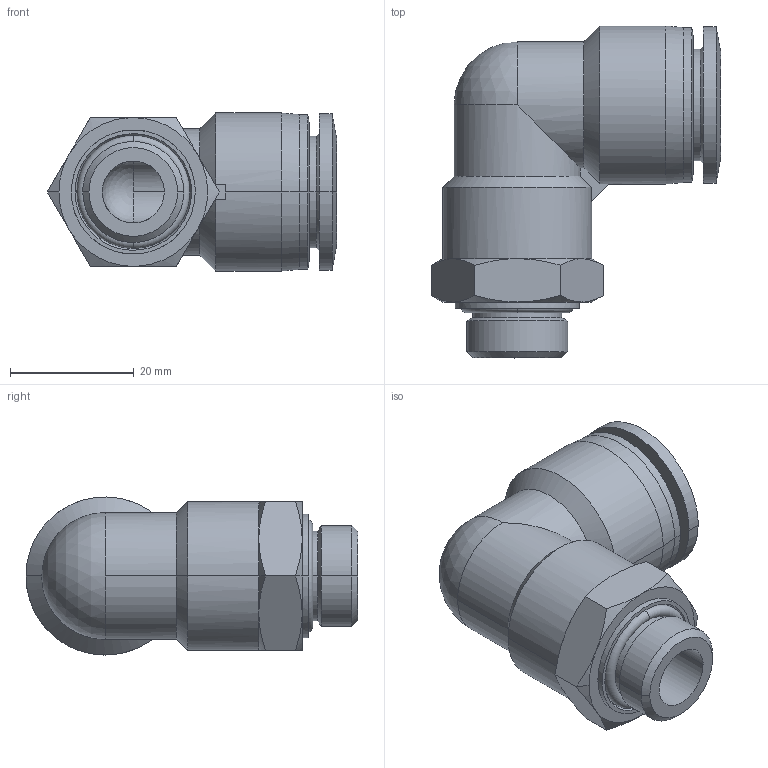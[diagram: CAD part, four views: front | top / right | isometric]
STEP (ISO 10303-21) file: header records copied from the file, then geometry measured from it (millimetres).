
FILE_DESCRIPTION (( 'STEP AP203' ), '1' );
FILE_NAME ('FL16-03.STEP', '2020-05-06T15:05:58', ( '' ), ( '' ), 'SwSTEP 2.0', 'SolidWorks 2019', '' );
FILE_SCHEMA (( 'CONFIG_CONTROL_DESIGN' ));
Length unit declared in the file: millimetre
Products named in the file (1): FL16-03
Bounding box: 46.66 x 53.55 x 25.5 mm (x, y, z)
Surface area: 9633.3 mm2 (no closed solid volume)
Topology: 0 solids, 4 shells, 85 faces, 201 edges, 122 vertices
Faces by surface type: cone 32, cylinder 28, plane 17, torus 6, sphere 2
Entity records: 4294 total; most frequent: CARTESIAN_POINT 2588, ORIENTED_EDGE 382, DIRECTION 228, EDGE_CURVE 199, B_SPLINE_CURVE_WITH_KNOTS 149, VERTEX_POINT 122, EDGE_LOOP 93, AXIS2_PLACEMENT_3D 92
